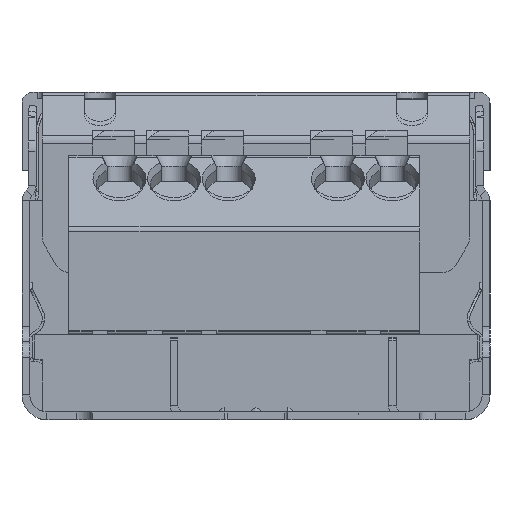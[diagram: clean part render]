
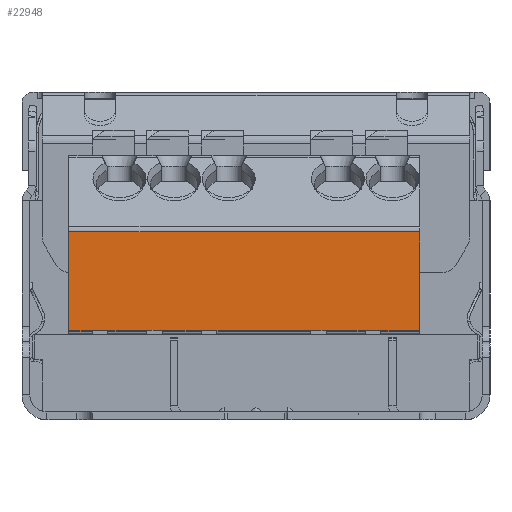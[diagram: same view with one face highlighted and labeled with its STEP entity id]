
A CAD part, left-side view. The second image highlights one B-rep face of the part: STEP entity #22948.
In plain terms, the highlighted planar face has unit normal (-1, 0, 0).
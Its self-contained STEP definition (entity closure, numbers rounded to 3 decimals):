
#1080=DIRECTION('',(0.,0.,1.));
#1081=VECTOR('',#1080,0.1);
#1082=CARTESIAN_POINT('',(9.7,-3.5,5.65));
#1083=LINE('',#1082,#1081);
#1092=DIRECTION('',(0.,1.,0.));
#1093=VECTOR('',#1092,6.);
#1094=CARTESIAN_POINT('',(9.7,-3.5,5.65));
#1095=LINE('',#1094,#1093);
#1104=DIRECTION('',(0.,0.,-1.));
#1105=VECTOR('',#1104,0.1);
#1106=CARTESIAN_POINT('',(9.7,2.5,5.75));
#1107=LINE('',#1106,#1105);
#1263=DIRECTION('',(0.,0.,1.));
#1264=VECTOR('',#1263,6.393);
#1265=CARTESIAN_POINT('',(9.7,-10.5,5.65));
#1266=LINE('',#1265,#1264);
#1337=DIRECTION('',(0.,0.,-1.));
#1338=VECTOR('',#1337,0.1);
#1339=CARTESIAN_POINT('',(9.7,-8.,5.75));
#1340=LINE('',#1339,#1338);
#1346=DIRECTION('',(0.,1.,0.));
#1347=VECTOR('',#1346,1.);
#1348=CARTESIAN_POINT('',(9.7,2.5,5.75));
#1349=LINE('',#1348,#1347);
#1350=DIRECTION('',(0.,1.,0.));
#1351=VECTOR('',#1350,1.);
#1352=CARTESIAN_POINT('',(9.7,6.,5.75));
#1353=LINE('',#1352,#1351);
#1354=DIRECTION('',(0.,1.,0.));
#1355=VECTOR('',#1354,1.);
#1356=CARTESIAN_POINT('',(9.7,9.5,5.75));
#1357=LINE('',#1356,#1355);
#1358=DIRECTION('',(0.,1.,0.));
#1359=VECTOR('',#1358,1.);
#1360=CARTESIAN_POINT('',(9.7,-8.,5.75));
#1361=LINE('',#1360,#1359);
#1362=DIRECTION('',(0.,1.,0.));
#1363=VECTOR('',#1362,1.);
#1364=CARTESIAN_POINT('',(9.7,-4.5,5.75));
#1365=LINE('',#1364,#1363);
#1371=DIRECTION('',(0.,0.,1.));
#1372=VECTOR('',#1371,0.1);
#1373=CARTESIAN_POINT('',(9.7,3.5,5.65));
#1374=LINE('',#1373,#1372);
#1383=DIRECTION('',(0.,1.,0.));
#1384=VECTOR('',#1383,2.5);
#1385=CARTESIAN_POINT('',(9.7,3.5,5.65));
#1386=LINE('',#1385,#1384);
#1395=DIRECTION('',(0.,0.,-1.));
#1396=VECTOR('',#1395,0.1);
#1397=CARTESIAN_POINT('',(9.7,6.,5.75));
#1398=LINE('',#1397,#1396);
#1413=DIRECTION('',(0.,0.,1.));
#1414=VECTOR('',#1413,0.1);
#1415=CARTESIAN_POINT('',(9.7,7.,5.65));
#1416=LINE('',#1415,#1414);
#1425=DIRECTION('',(0.,1.,0.));
#1426=VECTOR('',#1425,2.5);
#1427=CARTESIAN_POINT('',(9.7,7.,5.65));
#1428=LINE('',#1427,#1426);
#1437=DIRECTION('',(0.,0.,-1.));
#1438=VECTOR('',#1437,0.1);
#1439=CARTESIAN_POINT('',(9.7,9.5,5.75));
#1440=LINE('',#1439,#1438);
#1455=DIRECTION('',(0.,0.,1.));
#1456=VECTOR('',#1455,0.1);
#1457=CARTESIAN_POINT('',(9.7,10.5,5.65));
#1458=LINE('',#1457,#1456);
#1467=DIRECTION('',(0.,1.,0.));
#1468=VECTOR('',#1467,1.5);
#1469=CARTESIAN_POINT('',(9.7,10.5,5.65));
#1470=LINE('',#1469,#1468);
#1525=DIRECTION('',(0.,0.,-1.));
#1526=VECTOR('',#1525,6.393);
#1527=CARTESIAN_POINT('',(9.7,12.,12.043));
#1528=LINE('',#1527,#1526);
#1847=DIRECTION('',(0.,-1.,0.));
#1848=VECTOR('',#1847,22.5);
#1849=CARTESIAN_POINT('',(9.7,12.,12.043));
#1850=LINE('',#1849,#1848);
#3145=DIRECTION('',(0.,1.,0.));
#3146=VECTOR('',#3145,2.5);
#3147=CARTESIAN_POINT('',(9.7,-10.5,5.65));
#3148=LINE('',#3147,#3146);
#3154=DIRECTION('',(0.,0.,1.));
#3155=VECTOR('',#3154,0.1);
#3156=CARTESIAN_POINT('',(9.7,-7.,5.65));
#3157=LINE('',#3156,#3155);
#3166=DIRECTION('',(0.,1.,0.));
#3167=VECTOR('',#3166,2.5);
#3168=CARTESIAN_POINT('',(9.7,-7.,5.65));
#3169=LINE('',#3168,#3167);
#3178=DIRECTION('',(0.,0.,-1.));
#3179=VECTOR('',#3178,0.1);
#3180=CARTESIAN_POINT('',(9.7,-4.5,5.75));
#3181=LINE('',#3180,#3179);
#17852=CARTESIAN_POINT('',(9.7,12.,12.043));
#17853=VERTEX_POINT('',#17852);
#17854=CARTESIAN_POINT('',(9.7,12.,5.65));
#17855=VERTEX_POINT('',#17854);
#17920=CARTESIAN_POINT('',(9.7,10.5,5.75));
#17921=VERTEX_POINT('',#17920);
#17922=CARTESIAN_POINT('',(9.7,9.5,5.75));
#17923=VERTEX_POINT('',#17922);
#17928=CARTESIAN_POINT('',(9.7,7.,5.75));
#17929=VERTEX_POINT('',#17928);
#17930=CARTESIAN_POINT('',(9.7,6.,5.75));
#17931=VERTEX_POINT('',#17930);
#17936=CARTESIAN_POINT('',(9.7,3.5,5.75));
#17937=VERTEX_POINT('',#17936);
#17938=CARTESIAN_POINT('',(9.7,2.5,5.75));
#17939=VERTEX_POINT('',#17938);
#17944=CARTESIAN_POINT('',(9.7,-3.5,5.75));
#17945=VERTEX_POINT('',#17944);
#17946=CARTESIAN_POINT('',(9.7,-4.5,5.75));
#17947=VERTEX_POINT('',#17946);
#17952=CARTESIAN_POINT('',(9.7,-7.,5.75));
#17953=VERTEX_POINT('',#17952);
#17954=CARTESIAN_POINT('',(9.7,-8.,5.75));
#17955=VERTEX_POINT('',#17954);
#18008=CARTESIAN_POINT('',(9.7,10.5,5.65));
#18009=VERTEX_POINT('',#18008);
#18010=CARTESIAN_POINT('',(9.7,-3.5,5.65));
#18011=CARTESIAN_POINT('',(9.7,2.5,5.65));
#18012=VERTEX_POINT('',#18010);
#18013=VERTEX_POINT('',#18011);
#18014=CARTESIAN_POINT('',(9.7,3.5,5.65));
#18015=VERTEX_POINT('',#18014);
#18016=CARTESIAN_POINT('',(9.7,6.,5.65));
#18017=VERTEX_POINT('',#18016);
#18018=CARTESIAN_POINT('',(9.7,7.,5.65));
#18019=VERTEX_POINT('',#18018);
#18020=CARTESIAN_POINT('',(9.7,9.5,5.65));
#18021=VERTEX_POINT('',#18020);
#18022=CARTESIAN_POINT('',(9.7,-10.5,12.043));
#18023=VERTEX_POINT('',#18022);
#18024=CARTESIAN_POINT('',(9.7,-10.5,5.65));
#18025=VERTEX_POINT('',#18024);
#18026=CARTESIAN_POINT('',(9.7,-8.,5.65));
#18027=VERTEX_POINT('',#18026);
#18028=CARTESIAN_POINT('',(9.7,-7.,5.65));
#18029=VERTEX_POINT('',#18028);
#18030=CARTESIAN_POINT('',(9.7,-4.5,5.65));
#18031=VERTEX_POINT('',#18030);
#22903=CARTESIAN_POINT('',(9.7,-10.5,12.043));
#22904=DIRECTION('',(-1.,0.,0.));
#22905=DIRECTION('',(0.,0.,1.));
#22906=AXIS2_PLACEMENT_3D('',#22903,#22904,#22905);
#22907=PLANE('',#22906);
#22908=ORIENTED_EDGE('',*,*,#22471,.T.);
#22909=ORIENTED_EDGE('',*,*,#22486,.F.);
#22910=ORIENTED_EDGE('',*,*,#22545,.T.);
#22912=ORIENTED_EDGE('',*,*,#22911,.F.);
#22914=ORIENTED_EDGE('',*,*,#22913,.T.);
#22916=ORIENTED_EDGE('',*,*,#22915,.F.);
#22917=ORIENTED_EDGE('',*,*,#22537,.T.);
#22919=ORIENTED_EDGE('',*,*,#22918,.F.);
#22921=ORIENTED_EDGE('',*,*,#22920,.T.);
#22923=ORIENTED_EDGE('',*,*,#22922,.F.);
#22924=ORIENTED_EDGE('',*,*,#22529,.T.);
#22926=ORIENTED_EDGE('',*,*,#22925,.F.);
#22928=ORIENTED_EDGE('',*,*,#22927,.T.);
#22930=ORIENTED_EDGE('',*,*,#22929,.F.);
#22932=ORIENTED_EDGE('',*,*,#22931,.T.);
#22933=ORIENTED_EDGE('',*,*,#22836,.F.);
#22935=ORIENTED_EDGE('',*,*,#22934,.T.);
#22936=ORIENTED_EDGE('',*,*,#22896,.F.);
#22937=ORIENTED_EDGE('',*,*,#22558,.T.);
#22939=ORIENTED_EDGE('',*,*,#22938,.F.);
#22941=ORIENTED_EDGE('',*,*,#22940,.T.);
#22943=ORIENTED_EDGE('',*,*,#22942,.F.);
#22944=ORIENTED_EDGE('',*,*,#22550,.T.);
#22945=ORIENTED_EDGE('',*,*,#22455,.F.);
#22946=EDGE_LOOP('',(#22908,#22909,#22910,#22912,#22914,#22916,#22917,#22919,
#22921,#22923,#22924,#22926,#22928,#22930,#22932,#22933,#22935,#22936,#22937,
#22939,#22941,#22943,#22944,#22945));
#22947=FACE_OUTER_BOUND('',#22946,.F.);
#22948=ADVANCED_FACE('',(#22947),#22907,.T.);
#22455=EDGE_CURVE('',#18012,#17945,#1083,.T.);
#22471=EDGE_CURVE('',#18012,#18013,#1095,.T.);
#22486=EDGE_CURVE('',#17939,#18013,#1107,.T.);
#22529=EDGE_CURVE('',#17923,#17921,#1357,.T.);
#22537=EDGE_CURVE('',#17931,#17929,#1353,.T.);
#22545=EDGE_CURVE('',#17939,#17937,#1349,.T.);
#22550=EDGE_CURVE('',#17947,#17945,#1365,.T.);
#22558=EDGE_CURVE('',#17955,#17953,#1361,.T.);
#22836=EDGE_CURVE('',#18025,#18023,#1266,.T.);
#22896=EDGE_CURVE('',#17955,#18027,#1340,.T.);
#22911=EDGE_CURVE('',#18015,#17937,#1374,.T.);
#22913=EDGE_CURVE('',#18015,#18017,#1386,.T.);
#22915=EDGE_CURVE('',#17931,#18017,#1398,.T.);
#22918=EDGE_CURVE('',#18019,#17929,#1416,.T.);
#22920=EDGE_CURVE('',#18019,#18021,#1428,.T.);
#22922=EDGE_CURVE('',#17923,#18021,#1440,.T.);
#22925=EDGE_CURVE('',#18009,#17921,#1458,.T.);
#22927=EDGE_CURVE('',#18009,#17855,#1470,.T.);
#22929=EDGE_CURVE('',#17853,#17855,#1528,.T.);
#22931=EDGE_CURVE('',#17853,#18023,#1850,.T.);
#22934=EDGE_CURVE('',#18025,#18027,#3148,.T.);
#22938=EDGE_CURVE('',#18029,#17953,#3157,.T.);
#22940=EDGE_CURVE('',#18029,#18031,#3169,.T.);
#22942=EDGE_CURVE('',#17947,#18031,#3181,.T.);
